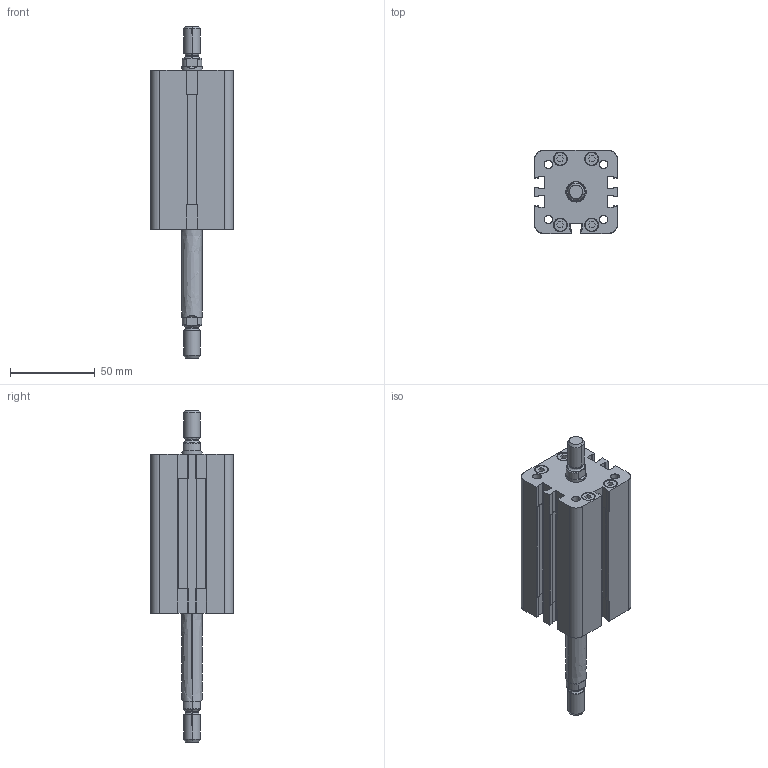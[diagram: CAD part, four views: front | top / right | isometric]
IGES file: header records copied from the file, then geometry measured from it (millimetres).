
Start section: SolidWorks IGES file using analytic representation for surfaces
Global section: file name: K:\Disegni Esecutivi\Cilindri\2_DISEGNI_cilindri_in_produzione\CILINDRO_ISO_21287\seconda versione cilindro 21287\2_CIL32\COMPLESSIVI _W_32\3D_W32_pieni\WJM32_pieni\WJM0320050A.igs; native system: SolidWorks 2011; preprocessor: SolidWorks 2011; author: Cad01; date: 120804.092121; units: millimetre
Bounding box: 49 x 49 x 196 mm (x, y, z)
Surface area: 40396.3 mm2 (no closed solid volume)
Topology: 0 solids, 0 shells, 441 faces, 4865 edges, 4865 vertices
Faces by surface type: bspline 224, revolution 217
